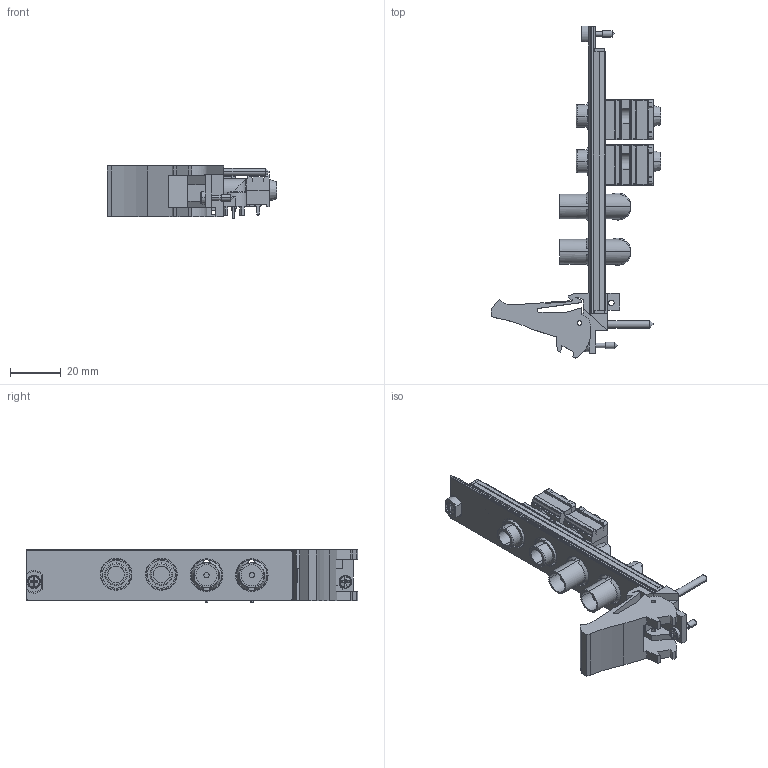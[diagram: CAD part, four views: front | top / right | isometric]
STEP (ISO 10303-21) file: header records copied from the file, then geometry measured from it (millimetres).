
FILE_DESCRIPTION((''),'2;1');
FILE_NAME('CU_PXI-2188','2010-01-20T',('jjorden'),(''),'PRO/ENGINEER BY PARAMETRIC TECHNOLOGY CORPORATION, 2006080','PRO/ENGINEER BY PARAMETRIC TECHNOLOGY CORPORATION, 2006080','');
FILE_SCHEMA(('CONFIG_CONTROL_DESIGN'));
Length unit declared in the file: inch
Products named in the file (1): CU_PXI-2188
Bounding box: 66.48 x 130.5 x 21.1 mm (x, y, z)
Volume: 25259.3 mm3; surface area: 24080.6 mm2
Topology: 4 solids, 4 shells, 755 faces, 2052 edges, 1348 vertices
Faces by surface type: plane 498, cylinder 215, cone 30, torus 8, sphere 4
Entity records: 24293 total; most frequent: CARTESIAN_POINT 4794, ORIENTED_EDGE 4096, DIRECTION 4003, EDGE_CURVE 2048, VECTOR 1445, LINE 1445, VERTEX_POINT 1348, AXIS2_PLACEMENT_3D 1279
